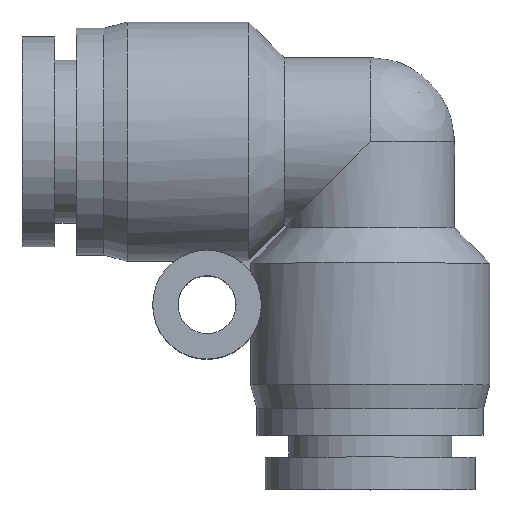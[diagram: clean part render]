
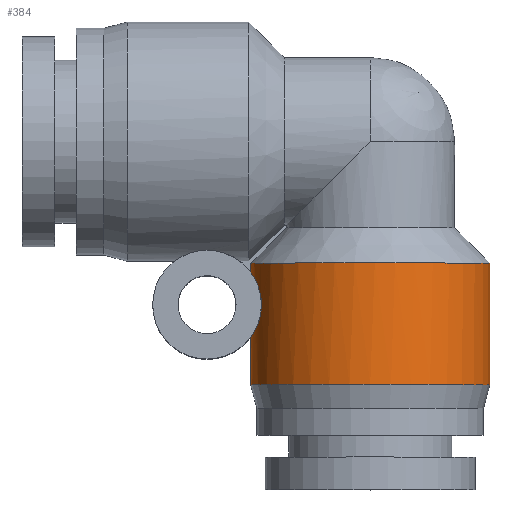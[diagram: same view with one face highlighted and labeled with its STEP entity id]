
A CAD part, top view. The second image highlights one B-rep face of the part: STEP entity #384.
In plain terms, the highlighted cylindrical face has radius 6.6 mm (diameter 13.2 mm), a full revolution.
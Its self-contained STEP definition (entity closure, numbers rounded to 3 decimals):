
#83=CARTESIAN_POINT('',(-6.581,-6.7,-0.5));
#84=VERTEX_POINT('',#83);
#98=CARTESIAN_POINT('',(-6.581,-7.226,-0.5));
#99=VERTEX_POINT('',#98);
#100=CARTESIAN_POINT('',(-6.581,-7.226,-0.5));
#101=DIRECTION('',(0.0,1.0,0.0));
#102=VECTOR('',#101,0.526);
#103=LINE('',#100,#102);
#104=EDGE_CURVE('',#99,#84,#103,.T.);
#193=CARTESIAN_POINT('',(-6.581,-7.226,0.5));
#194=VERTEX_POINT('',#193);
#202=CARTESIAN_POINT('',(-6.581,-6.7,0.5));
#203=VERTEX_POINT('',#202);
#204=CARTESIAN_POINT('',(-6.581,-6.7,0.5));
#205=DIRECTION('',(0.0,-1.0,0.0));
#206=VECTOR('',#205,0.526);
#207=LINE('',#204,#206);
#208=EDGE_CURVE('',#203,#194,#207,.T.);
#254=CARTESIAN_POINT('',(-6.6,-10.8,0.));
#255=VERTEX_POINT('',#254);
#256=CARTESIAN_POINT('',(-6.6,-10.8,0.));
#257=CARTESIAN_POINT('',(-6.6,-10.8,-0.454));
#258=CARTESIAN_POINT('',(-6.548,-10.737,-0.939));
#259=CARTESIAN_POINT('',(-6.409,-10.514,-1.593));
#260=CARTESIAN_POINT('',(-6.353,-10.419,-1.798));
#261=CARTESIAN_POINT('',(-6.237,-10.177,-2.166));
#262=CARTESIAN_POINT('',(-6.177,-10.032,-2.329));
#263=CARTESIAN_POINT('',(-6.09,-9.739,-2.546));
#264=CARTESIAN_POINT('',(-6.057,-9.601,-2.622));
#265=CARTESIAN_POINT('',(-6.012,-9.305,-2.724));
#266=CARTESIAN_POINT('',(-6.0,-9.147,-2.75));
#267=CARTESIAN_POINT('',(-6.0,-8.853,-2.75));
#268=CARTESIAN_POINT('',(-6.012,-8.695,-2.724));
#269=CARTESIAN_POINT('',(-6.057,-8.399,-2.622));
#270=CARTESIAN_POINT('',(-6.09,-8.261,-2.546));
#271=CARTESIAN_POINT('',(-6.177,-7.968,-2.329));
#272=CARTESIAN_POINT('',(-6.237,-7.823,-2.166));
#273=CARTESIAN_POINT('',(-6.353,-7.581,-1.798));
#274=CARTESIAN_POINT('',(-6.409,-7.486,-1.593));
#275=CARTESIAN_POINT('',(-6.514,-7.316,-1.097));
#276=CARTESIAN_POINT('',(-6.558,-7.256,-0.798));
#277=CARTESIAN_POINT('',(-6.581,-7.226,-0.5));
#278=B_SPLINE_CURVE_WITH_KNOTS('',3,(#256,#257,#258,#259,#260,#261,#262,#263,#264,#265,#266,#267,#268,#269,#270,#271,#272,#273,#274,#275,#276,#277),.UNSPECIFIED.,.F.,.U.,(4,2,2,2,2,2,2,2,2,2,4),(0.0,0.136,0.204,0.272,0.316,0.361,0.405,0.449,0.517,0.585,0.672),.UNSPECIFIED.);
#279=EDGE_CURVE('',#255,#99,#278,.T.);
#281=CARTESIAN_POINT('',(-6.581,-7.226,0.5));
#282=CARTESIAN_POINT('',(-6.558,-7.256,0.798));
#283=CARTESIAN_POINT('',(-6.514,-7.316,1.097));
#284=CARTESIAN_POINT('',(-6.409,-7.486,1.593));
#285=CARTESIAN_POINT('',(-6.353,-7.581,1.798));
#286=CARTESIAN_POINT('',(-6.237,-7.823,2.166));
#287=CARTESIAN_POINT('',(-6.177,-7.968,2.329));
#288=CARTESIAN_POINT('',(-6.09,-8.261,2.546));
#289=CARTESIAN_POINT('',(-6.057,-8.399,2.622));
#290=CARTESIAN_POINT('',(-6.012,-8.695,2.724));
#291=CARTESIAN_POINT('',(-6.0,-8.853,2.75));
#292=CARTESIAN_POINT('',(-6.0,-9.147,2.75));
#293=CARTESIAN_POINT('',(-6.012,-9.305,2.724));
#294=CARTESIAN_POINT('',(-6.057,-9.601,2.622));
#295=CARTESIAN_POINT('',(-6.09,-9.739,2.546));
#296=CARTESIAN_POINT('',(-6.177,-10.032,2.329));
#297=CARTESIAN_POINT('',(-6.237,-10.177,2.166));
#298=CARTESIAN_POINT('',(-6.353,-10.419,1.798));
#299=CARTESIAN_POINT('',(-6.409,-10.514,1.593));
#300=CARTESIAN_POINT('',(-6.548,-10.737,0.939));
#301=CARTESIAN_POINT('',(-6.6,-10.8,0.454));
#302=CARTESIAN_POINT('',(-6.6,-10.8,0.));
#303=B_SPLINE_CURVE_WITH_KNOTS('',3,(#281,#282,#283,#284,#285,#286,#287,#288,#289,#290,#291,#292,#293,#294,#295,#296,#297,#298,#299,#300,#301,#302),.UNSPECIFIED.,.F.,.U.,(4,2,2,2,2,2,2,2,2,2,4),(0.77,0.857,0.925,0.993,1.038,1.082,1.126,1.17,1.238,1.306,1.442),.UNSPECIFIED.);
#304=EDGE_CURVE('',#194,#255,#303,.T.);
#355=CARTESIAN_POINT('',(0.,-10.05,0.0));
#356=DIRECTION('',(0.,1.0,0.0));
#357=DIRECTION('',(-1.0,0.0,0.0));
#358=AXIS2_PLACEMENT_3D('',#355,#356,#357);
#359=CYLINDRICAL_SURFACE('',#358,6.6);
#360=CARTESIAN_POINT('',(-6.6,-13.4,0.0));
#361=VERTEX_POINT('',#360);
#362=CARTESIAN_POINT('',(0.,-13.4,0.0));
#363=DIRECTION('',(0.0,1.0,0.0));
#364=DIRECTION('',(-1.0,0.0,0.0));
#365=AXIS2_PLACEMENT_3D('',#362,#363,#364);
#366=CIRCLE('',#365,6.6);
#367=EDGE_CURVE('',#361,#361,#366,.T.);
#368=ORIENTED_EDGE('',*,*,#367,.T.);
#369=EDGE_LOOP('',(#368));
#370=FACE_OUTER_BOUND('',#369,.T.);
#371=ORIENTED_EDGE('',*,*,#104,.T.);
#372=CARTESIAN_POINT('',(0.,-6.7,0.0));
#373=DIRECTION('',(0.0,1.0,0.0));
#374=DIRECTION('',(-1.0,0.0,0.0));
#375=AXIS2_PLACEMENT_3D('',#372,#373,#374);
#376=CIRCLE('',#375,6.6);
#377=EDGE_CURVE('',#203,#84,#376,.T.);
#378=ORIENTED_EDGE('',*,*,#377,.F.);
#379=ORIENTED_EDGE('',*,*,#208,.T.);
#380=ORIENTED_EDGE('',*,*,#304,.T.);
#381=ORIENTED_EDGE('',*,*,#279,.T.);
#382=EDGE_LOOP('',(#371,#378,#379,#380,#381));
#383=FACE_BOUND('',#382,.T.);
#384=ADVANCED_FACE('',(#370,#383),#359,.T.);
